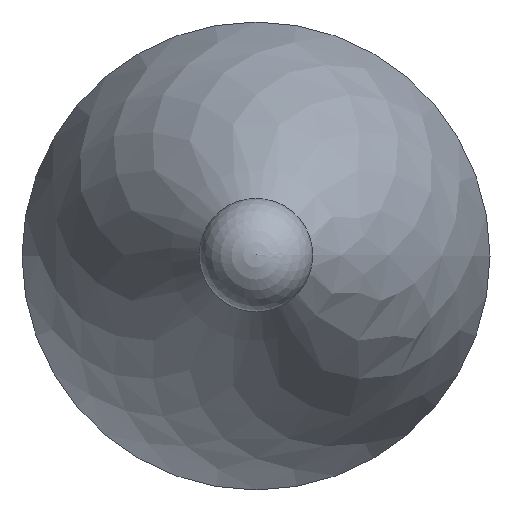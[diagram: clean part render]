
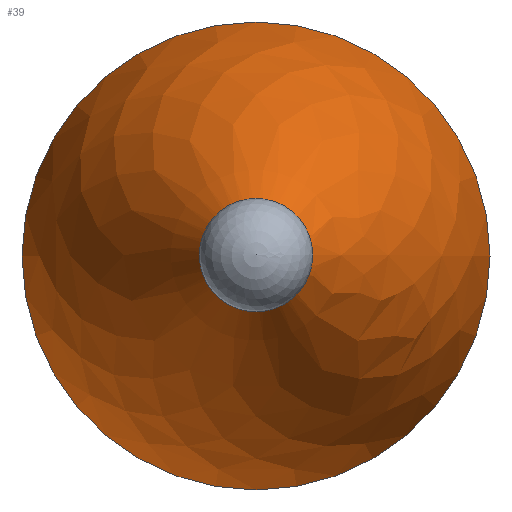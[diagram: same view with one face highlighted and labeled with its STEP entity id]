
A CAD part, top view. The second image highlights one B-rep face of the part: STEP entity #39.
In plain terms, the highlighted face is a revolution surface.
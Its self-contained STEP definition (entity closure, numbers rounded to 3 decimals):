
#39 = ADVANCED_FACE('',(#40),#53,.T.);
#40 = FACE_BOUND('',#41,.T.);
#41 = EDGE_LOOP('',(#42,#82,#108,#135));
#42 = ORIENTED_EDGE('',*,*,#43,.T.);
#43 = EDGE_CURVE('',#44,#44,#46,.T.);
#44 = VERTEX_POINT('',#45);
#45 = CARTESIAN_POINT('',(16.5,0.,0.));
#46 = SURFACE_CURVE('',#47,(#52,#70),.PCURVE_S1.);
#47 = CIRCLE('',#48,16.5);
#48 = AXIS2_PLACEMENT_3D('',#49,#50,#51);
#49 = CARTESIAN_POINT('',(0.,0.,0.));
#50 = DIRECTION('',(0.,0.,1.));
#51 = DIRECTION('',(1.,0.,-0.));
#52 = PCURVE('',#53,#64);
#53 = SURFACE_OF_REVOLUTION('',#54,#61);
#54 = B_SPLINE_CURVE_WITH_KNOTS('',3,(#55,#56,#57,#58,#59,#60),
  .UNSPECIFIED.,.F.,.F.,(4,1,1,4),(0.,12.258,27.489,
    38.902),.UNSPECIFIED.);
#55 = CARTESIAN_POINT('',(16.5,0.,0.));
#56 = CARTESIAN_POINT('',(16.14,0.,4.129));
#57 = CARTESIAN_POINT('',(14.144,0.,13.079));
#58 = CARTESIAN_POINT('',(8.757,0.,24.955));
#59 = CARTESIAN_POINT('',(4.369,-0.,32.72));
#60 = CARTESIAN_POINT('',(2.5,0.,36.));
#61 = AXIS1_PLACEMENT('',#62,#63);
#62 = CARTESIAN_POINT('',(0.,0.,0.));
#63 = DIRECTION('',(0.,0.,1.));
#64 = DEFINITIONAL_REPRESENTATION('',(#65),#69);
#65 = LINE('',#66,#67);
#66 = CARTESIAN_POINT('',(0.,0.));
#67 = VECTOR('',#68,1.);
#68 = DIRECTION('',(1.,0.));
#69 = ( GEOMETRIC_REPRESENTATION_CONTEXT(2) 
PARAMETRIC_REPRESENTATION_CONTEXT() REPRESENTATION_CONTEXT('2D SPACE',''
  ) );
#70 = PCURVE('',#71,#76);
#71 = PLANE('',#72);
#72 = AXIS2_PLACEMENT_3D('',#73,#74,#75);
#73 = CARTESIAN_POINT('',(0.,0.,0.));
#74 = DIRECTION('',(0.,0.,1.));
#75 = DIRECTION('',(1.,0.,-0.));
#76 = DEFINITIONAL_REPRESENTATION('',(#77),#81);
#77 = CIRCLE('',#78,16.5);
#78 = AXIS2_PLACEMENT_2D('',#79,#80);
#79 = CARTESIAN_POINT('',(0.,0.));
#80 = DIRECTION('',(1.,-0.));
#81 = ( GEOMETRIC_REPRESENTATION_CONTEXT(2) 
PARAMETRIC_REPRESENTATION_CONTEXT() REPRESENTATION_CONTEXT('2D SPACE',''
  ) );
#82 = ORIENTED_EDGE('',*,*,#83,.T.);
#83 = EDGE_CURVE('',#44,#84,#86,.T.);
#84 = VERTEX_POINT('',#85);
#85 = CARTESIAN_POINT('',(2.5,0.,36.));
#86 = SEAM_CURVE('',#87,(#94,#101),.PCURVE_S1.);
#87 = B_SPLINE_CURVE_WITH_KNOTS('',3,(#88,#89,#90,#91,#92,#93),
  .UNSPECIFIED.,.F.,.F.,(4,1,1,4),(0.,12.258,27.489,
    38.902),.UNSPECIFIED.);
#88 = CARTESIAN_POINT('',(16.5,0.,0.));
#89 = CARTESIAN_POINT('',(16.14,0.,4.129));
#90 = CARTESIAN_POINT('',(14.144,0.,13.079));
#91 = CARTESIAN_POINT('',(8.757,0.,24.955));
#92 = CARTESIAN_POINT('',(4.369,-0.,32.72));
#93 = CARTESIAN_POINT('',(2.5,0.,36.));
#94 = PCURVE('',#53,#95);
#95 = DEFINITIONAL_REPRESENTATION('',(#96),#100);
#96 = LINE('',#97,#98);
#97 = CARTESIAN_POINT('',(0.,0.));
#98 = VECTOR('',#99,1.);
#99 = DIRECTION('',(0.,1.));
#100 = ( GEOMETRIC_REPRESENTATION_CONTEXT(2) 
PARAMETRIC_REPRESENTATION_CONTEXT() REPRESENTATION_CONTEXT('2D SPACE',''
  ) );
#101 = PCURVE('',#53,#102);
#102 = DEFINITIONAL_REPRESENTATION('',(#103),#107);
#103 = LINE('',#104,#105);
#104 = CARTESIAN_POINT('',(6.283,0.));
#105 = VECTOR('',#106,1.);
#106 = DIRECTION('',(0.,1.));
#107 = ( GEOMETRIC_REPRESENTATION_CONTEXT(2) 
PARAMETRIC_REPRESENTATION_CONTEXT() REPRESENTATION_CONTEXT('2D SPACE',''
  ) );
#108 = ORIENTED_EDGE('',*,*,#109,.F.);
#109 = EDGE_CURVE('',#84,#84,#110,.T.);
#110 = SURFACE_CURVE('',#111,(#116,#123),.PCURVE_S1.);
#111 = CIRCLE('',#112,2.5);
#112 = AXIS2_PLACEMENT_3D('',#113,#114,#115);
#113 = CARTESIAN_POINT('',(0.,0.,36.));
#114 = DIRECTION('',(0.,0.,1.));
#115 = DIRECTION('',(1.,0.,-0.));
#116 = PCURVE('',#53,#117);
#117 = DEFINITIONAL_REPRESENTATION('',(#118),#122);
#118 = LINE('',#119,#120);
#119 = CARTESIAN_POINT('',(0.,38.902));
#120 = VECTOR('',#121,1.);
#121 = DIRECTION('',(1.,0.));
#122 = ( GEOMETRIC_REPRESENTATION_CONTEXT(2) 
PARAMETRIC_REPRESENTATION_CONTEXT() REPRESENTATION_CONTEXT('2D SPACE',''
  ) );
#123 = PCURVE('',#124,#129);
#124 = PLANE('',#125);
#125 = AXIS2_PLACEMENT_3D('',#126,#127,#128);
#126 = CARTESIAN_POINT('',(0.,0.,36.));
#127 = DIRECTION('',(0.,0.,1.));
#128 = DIRECTION('',(1.,0.,-0.));
#129 = DEFINITIONAL_REPRESENTATION('',(#130),#134);
#130 = CIRCLE('',#131,2.5);
#131 = AXIS2_PLACEMENT_2D('',#132,#133);
#132 = CARTESIAN_POINT('',(0.,0.));
#133 = DIRECTION('',(1.,0.));
#134 = ( GEOMETRIC_REPRESENTATION_CONTEXT(2) 
PARAMETRIC_REPRESENTATION_CONTEXT() REPRESENTATION_CONTEXT('2D SPACE',''
  ) );
#135 = ORIENTED_EDGE('',*,*,#83,.F.);
